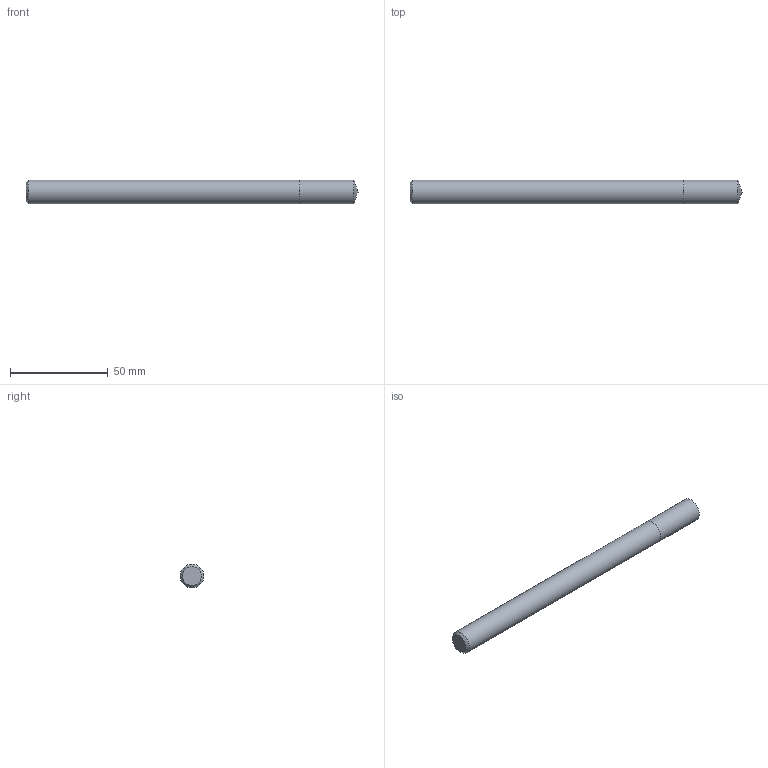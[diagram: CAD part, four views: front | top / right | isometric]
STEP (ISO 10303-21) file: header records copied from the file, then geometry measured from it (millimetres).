
FILE_DESCRIPTION (( 'STEP AP214' ), '1' );
FILE_NAME ('03-2239.STEP', '2022-02-07T07:07:34', ( 'USER' ), ( '' ), 'SwSTEP 2.0', 'SolidWorks 2018', '' );
FILE_SCHEMA (( 'AUTOMOTIVE_DESIGN' ));
Length unit declared in the file: millimetre
Products named in the file (1): 03-2239
Bounding box: 170 x 12 x 12 mm (x, y, z)
Volume: 19045.4 mm3; surface area: 6761.5 mm2
Topology: 2 solids, 2 shells, 7 faces, 11 edges, 7 vertices
Faces by surface type: plane 3, cylinder 2, cone 2
Full cylindrical faces by diameter (mm): 12 x2
Entity records: 189 total; most frequent: DIRECTION 26, CARTESIAN_POINT 18, AXIS2_PLACEMENT_3D 13, EDGE_LOOP 10, ORIENTED_EDGE 10, FACE_OUTER_BOUND 9, ADVANCED_FACE 7, UNCERTAINTY_MEASURE_WITH_UNIT 6
